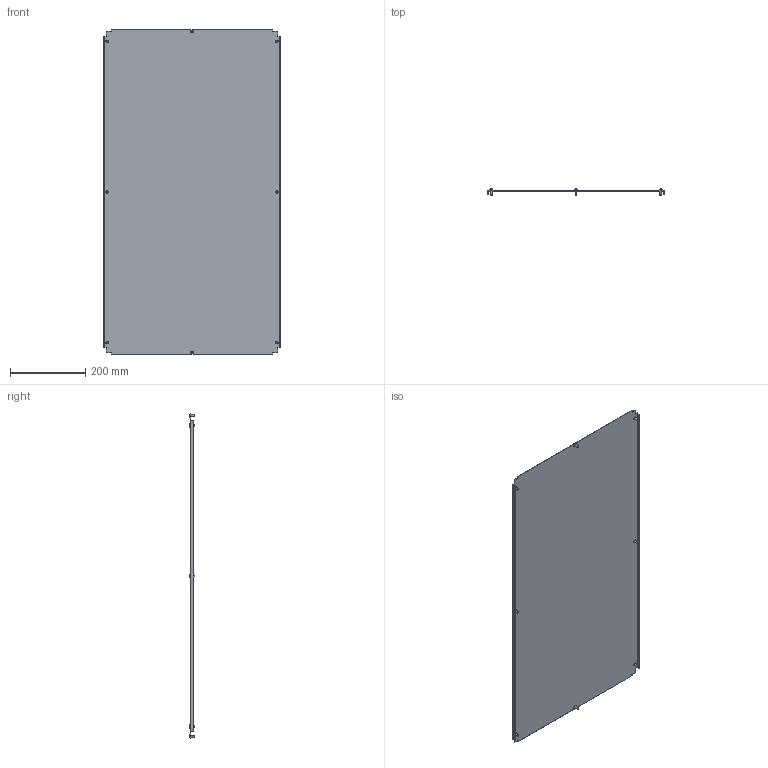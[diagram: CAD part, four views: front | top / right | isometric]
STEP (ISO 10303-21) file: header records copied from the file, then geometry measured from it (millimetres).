
FILE_DESCRIPTION (( 'STEP AP203' ), '1' );
FILE_NAME ('R5N1BP106.STEP', '2025-02-21T13:56:19', ( '' ), ( '' ), 'SwSTEP 2.0', 'SolidWorks 2022', '' );
FILE_SCHEMA (( 'CONFIG_CONTROL_DESIGN' ));
Length unit declared in the file: millimetre
Products named in the file (3): RB.1923.00.00.0_-11; M5x12 DIN 7500 C Torx Zinc_stright; R5N1BP106
Assembly tree (9 placements, depth 2):
  R5N1BP106
    RB.1923.00.00.0_-11
    M5x12 DIN 7500 C Torx Zinc_stright  x8
Bounding box: 468 x 15.56 x 862 mm (x, y, z)
Volume: 625463.3 mm3; surface area: 837127 mm2
Topology: 9 solids, 9 shells, 206 faces, 468 edges, 288 vertices
Faces by surface type: plane 126, cylinder 32, torus 16, cone 16, sphere 8, bspline 8
Full cylindrical faces by diameter (mm): 5 x8, 9.5 x8
Entity records: 3641 total; most frequent: CARTESIAN_POINT 724, ORIENTED_EDGE 496, DIRECTION 496, EDGE_CURVE 248, VECTOR 196, LINE 196, VERTEX_POINT 166, AXIS2_PLACEMENT_3D 150
